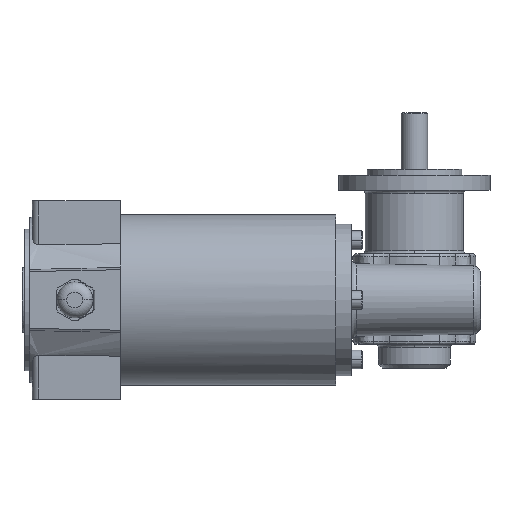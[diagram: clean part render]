
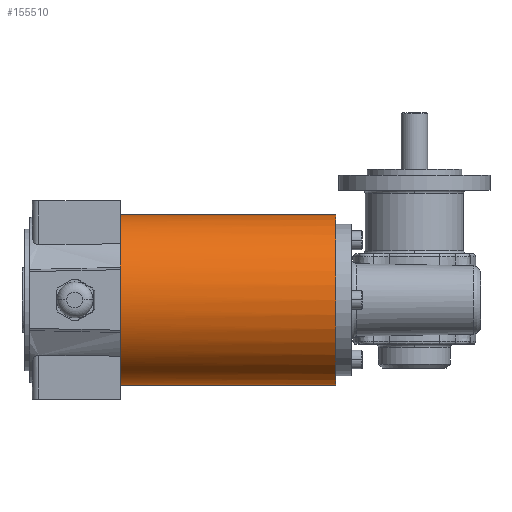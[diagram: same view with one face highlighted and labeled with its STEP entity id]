
A CAD part, front view. The second image highlights one B-rep face of the part: STEP entity #155510.
In plain terms, the highlighted cylindrical face has radius 45 mm (diameter 90 mm), a partial arc.
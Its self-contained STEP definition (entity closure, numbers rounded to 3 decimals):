
#21200=CARTESIAN_POINT('',(-64.,458.874,
-134.584));
#21210=DIRECTION('',(0.,1.,
-0.026));
#21220=DIRECTION('',(1.,0.,0.));
#21230=AXIS2_PLACEMENT_3D('',#21200,#21210,#21220);
#21240=CIRCLE('',#21230,45.);
#21250=CARTESIAN_POINT('',(-19.,458.874,
-134.584));
#21260=VERTEX_POINT('',#21250);
#21270=CARTESIAN_POINT('',(-109.,458.874,
-134.584));
#21280=VERTEX_POINT('',#21270);
#21290=EDGE_CURVE('',#21260,#21280,#21240,.T.);
#21360=CARTESIAN_POINT('',(-64.,458.874,
-134.584));
#21370=DIRECTION('',(0.,1.,
-0.026));
#21380=DIRECTION('',(1.,0.,0.));
#21390=AXIS2_PLACEMENT_3D('',#21360,#21370,#21380);
#21400=CYLINDRICAL_SURFACE('',#21390,45.);
#21410=CARTESIAN_POINT('',(-109.,458.874,
-134.584));
#21420=DIRECTION('',(0.,1.,
-0.026));
#21430=VECTOR('',#21420,1.);
#21440=LINE('',#21410,#21430);
#21450=CARTESIAN_POINT('',(-109.,572.835,
-137.568));
#21460=VERTEX_POINT('',#21450);
#21470=EDGE_CURVE('',#21280,#21460,#21440,.T.);
#21490=CARTESIAN_POINT('',(-64.,572.835,
-137.568));
#21500=DIRECTION('',(0.,1.,
-0.026));
#21510=DIRECTION('',(1.,0.,0.));
#21520=AXIS2_PLACEMENT_3D('',#21490,#21500,#21510);
#21530=CIRCLE('',#21520,45.);
#21540=CARTESIAN_POINT('',(-19.,572.835,
-137.568));
#21550=VERTEX_POINT('',#21540);
#21580=CARTESIAN_POINT('',(-19.,458.874,
-134.584));
#21590=DIRECTION('',(0.,1.,
-0.026));
#21600=VECTOR('',#21590,1.);
#21610=LINE('',#21580,#21600);
#21620=EDGE_CURVE('',#21260,#21550,#21610,.T.);
#21730=EDGE_CURVE('',#21550,#21460,#21530,.T.);
#155450=ORIENTED_EDGE('',*,*,#21730,.F.);
#155460=ORIENTED_EDGE('',*,*,#21470,.T.);
#155470=ORIENTED_EDGE('',*,*,#21290,.T.);
#155480=ORIENTED_EDGE('',*,*,#21620,.F.);
#155490=EDGE_LOOP('',(#155480,#155470,#155460,#155450));
#155500=FACE_OUTER_BOUND('',#155490,.T.);
#155510=ADVANCED_FACE('',(#155500),#21400,.T.);
